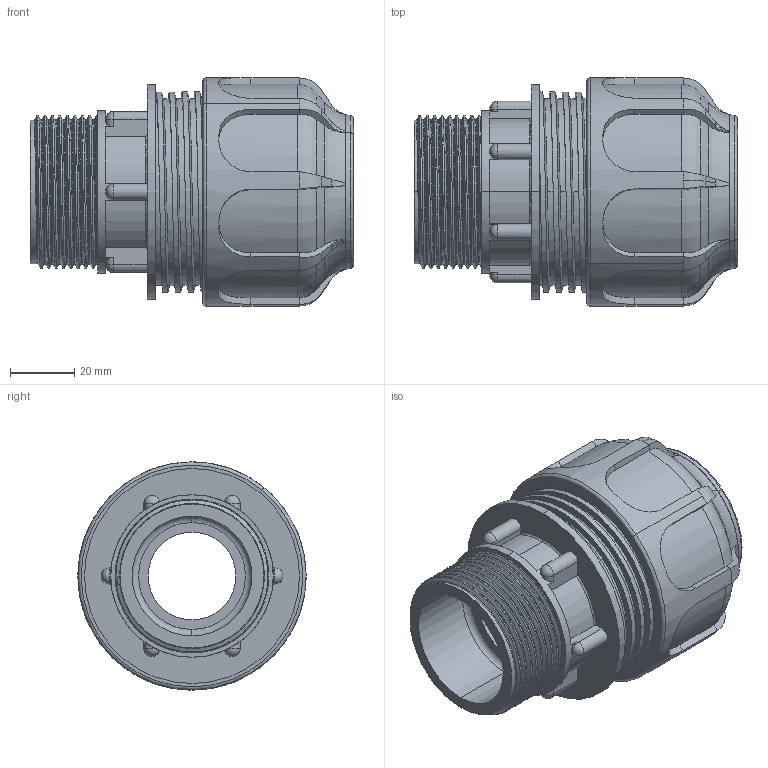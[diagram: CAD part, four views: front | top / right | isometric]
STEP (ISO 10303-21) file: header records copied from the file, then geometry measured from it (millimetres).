
FILE_DESCRIPTION (( 'STEP AP203' ), '1' );
FILE_NAME ('02004.1132.STEP', '2017-05-22T14:13:49', ( '' ), ( '' ), 'SwSTEP 2.0', 'SolidWorks 2011', '' );
FILE_SCHEMA (( 'CONFIG_CONTROL_DESIGN' ));
Length unit declared in the file: millimetre
Products named in the file (3): 02004.1132; 01711_3232; 01770_1132
Assembly tree (2 placements, depth 2):
  02004.1132
    01770_1132
    01711_3232
Bounding box: 100.68 x 71.1 x 71.1 mm (x, y, z)
Volume: 98056 mm3; surface area: 78767.5 mm2
Topology: 2 solids, 2 shells, 450 faces, 1263 edges, 815 vertices
Faces by surface type: cylinder 168, plane 132, torus 105, cone 28, bspline 11, sphere 6
Entity records: 24392 total; most frequent: CARTESIAN_POINT 13363, ORIENTED_EDGE 2504, DIRECTION 2016, EDGE_CURVE 1252, AXIS2_PLACEMENT_3D 816, VERTEX_POINT 813, EDGE_LOOP 461, FACE_OUTER_BOUND 450
